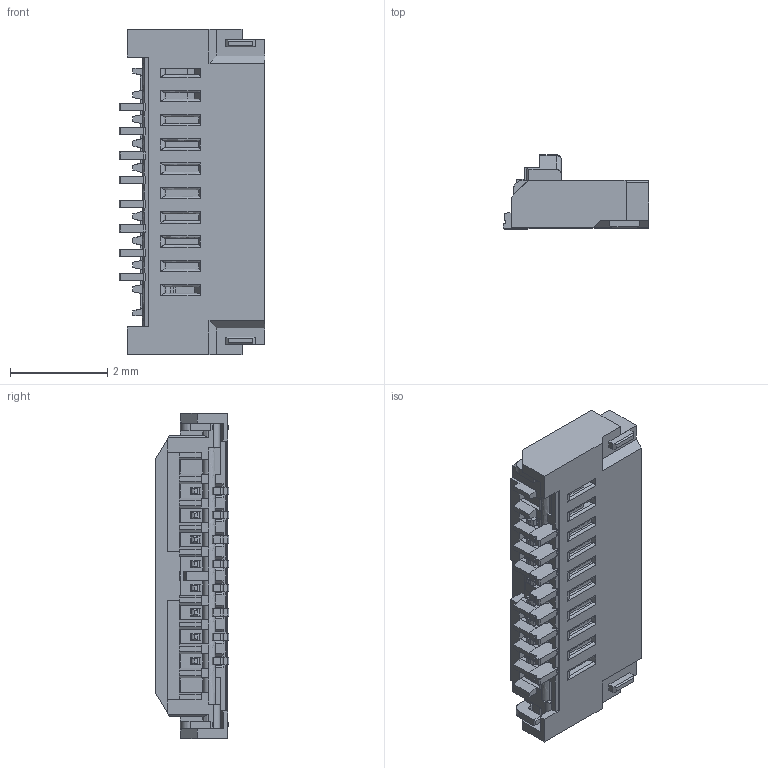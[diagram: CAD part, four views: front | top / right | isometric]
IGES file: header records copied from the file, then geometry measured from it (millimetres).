
Start section: SolidWorks IGES file using analytic representation for surfaces
Global section: file name: \\3D-CAD-10-2\3dwork\fukumoto\6P DW Connector\試作　改訂130110\130430_第二回改造DR形状\3Dまとめ\20598-RECE. ASS'Y 6P ACT OPEN.IGS; native system: SolidWorks 2012; preprocessor: SolidWorks 2012; author: 3dcad; date: 150722.153853; units: millimetre
Bounding box: 3 x 1.52 x 6.7 mm (x, y, z)
Surface area: 73.1 mm2 (no closed solid volume)
Topology: 0 solids, 0 shells, 638 faces, 4031 edges, 4029 vertices
Faces by surface type: bspline 487, revolution 151
